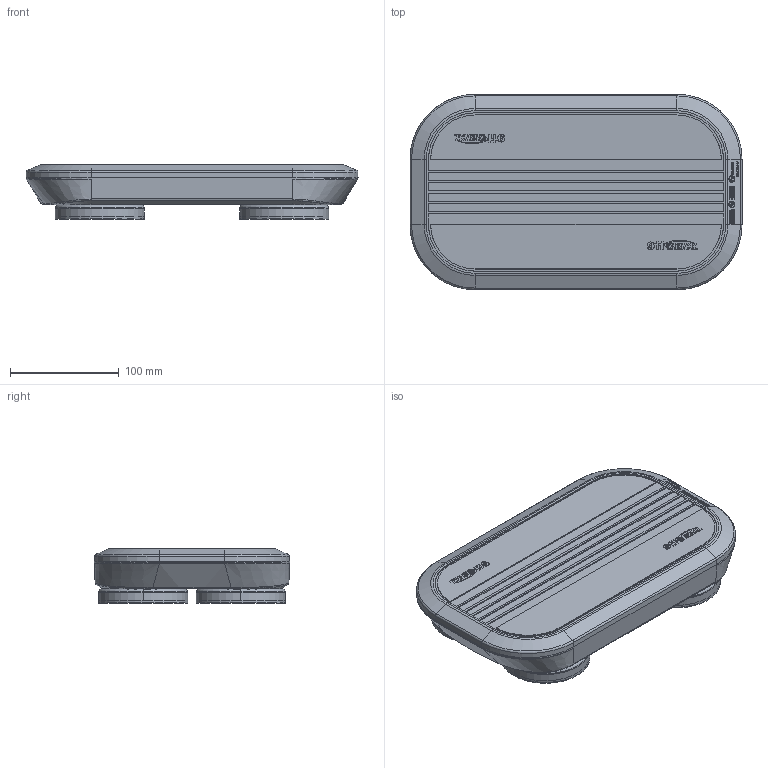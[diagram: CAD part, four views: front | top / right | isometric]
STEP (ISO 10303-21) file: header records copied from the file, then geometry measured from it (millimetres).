
FILE_DESCRIPTION(/* description */ (''),/* implementation_level */ '2;1');
FILE_NAME(/* name */ 'MINI_Adventurer.stp',/* time_stamp */ '2020-09-11T14:05:35+08:00',/* author */ (''),/* organization */ (''),/* preprocessor_version */ 'ST-DEVELOPER v15',/* originating_system */ 'SIEMENS PLM Software NX 8.5',/* authorisation */ '');
FILE_SCHEMA (('AP203_CONFIGURATION_CONTROLLED_3D_DESIGN_OF_MECHANICAL_PARTS_AND_ASSEMBLIES_MIM_LF { 1 0 10303 403 2 1 2}'));
Products named in the file (1): Admi52386BE5hclo
Bounding box: 306 x 180 x 50.6 mm (x, y, z)
Volume: 651707.6 mm3; surface area: 531794.9 mm2
Topology: 28 solids, 29 shells, 4679 faces, 12659 edges, 8330 vertices
Faces by surface type: plane 3026, cylinder 904, torus 252, extrusion 220, cone 198, bspline 75, sphere 4
Full cylindrical faces by diameter (mm): 2.5 x30, 3.4 x4, 5 x4, 5.4 x2, 5.445 x4, 5.795 x4, 6 x2, 7.6 x4, 12 x4, 32.5 x4, 65 x4, 81.1 x4, 82.1 x4
Entity records: 171951 total; most frequent: CARTESIAN_POINT 55368, ORIENTED_EDGE 24898, DIRECTION 22826, EDGE_CURVE 12451, VECTOR 8560, LINE 8340, VERTEX_POINT 8254, AXIS2_PLACEMENT_3D 7133
